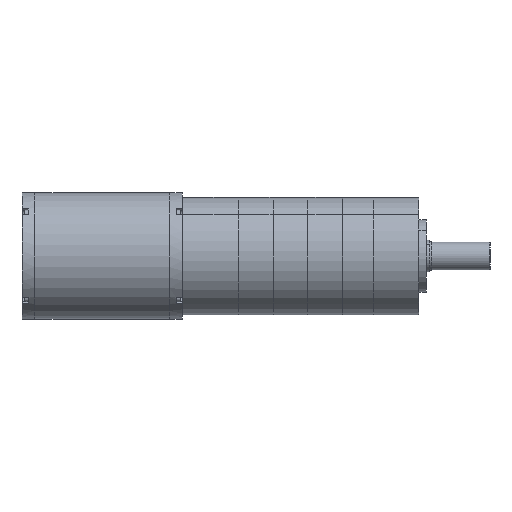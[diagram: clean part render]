
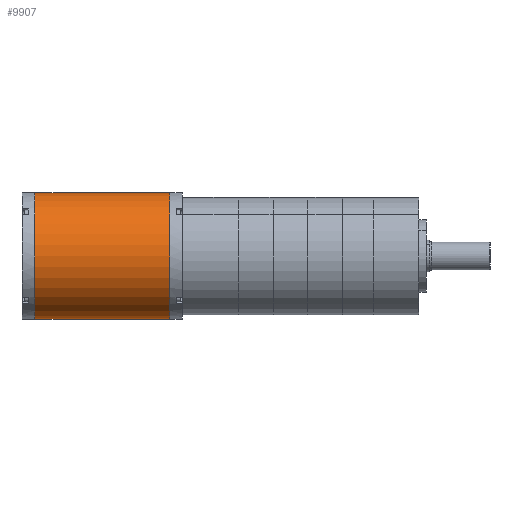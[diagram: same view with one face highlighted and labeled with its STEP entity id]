
A CAD part, front view. The second image highlights one B-rep face of the part: STEP entity #9907.
In plain terms, the highlighted cylindrical face has radius 43.69 mm (diameter 87.38 mm), a partial arc.
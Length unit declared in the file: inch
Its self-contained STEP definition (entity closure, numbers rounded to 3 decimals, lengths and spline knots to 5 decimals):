
#145 = DIRECTION ( 'NONE',  ( 0., 0., -1. ) ) ;
#764 = AXIS2_PLACEMENT_3D ( 'NONE', #5219, #12320, #145 ) ;
#833 = FACE_OUTER_BOUND ( 'NONE', #8288, .T. ) ;
#1009 = VERTEX_POINT ( 'NONE', #1346 ) ;
#1051 = LINE ( 'NONE', #9241, #9154 ) ;
#1190 = DIRECTION ( 'NONE',  ( -1., 0., 0. ) ) ;
#1327 = DIRECTION ( 'NONE',  ( 0., 0., -1. ) ) ;
#1346 = CARTESIAN_POINT ( 'NONE',  ( 2.85858, 2.42553, 2.36782 ) ) ;
#1649 = LINE ( 'NONE', #9857, #1789 ) ;
#1789 = VECTOR ( 'NONE', #8796, 39.37008 ) ;
#2831 = EDGE_CURVE ( 'NONE', #6806, #5953, #10387, .T. ) ;
#4038 = AXIS2_PLACEMENT_3D ( 'NONE', #7395, #4448, #1327 ) ;
#4154 = CARTESIAN_POINT ( 'NONE',  ( -0.79142, 2.42553, 5.80798 ) ) ;
#4448 = DIRECTION ( 'NONE',  ( 1., 0., 0. ) ) ;
#4630 = CARTESIAN_POINT ( 'NONE',  ( 2.85858, 2.42553, 5.80798 ) ) ;
#5022 = AXIS2_PLACEMENT_3D ( 'NONE', #12456, #8424, #9212 ) ;
#5219 = CARTESIAN_POINT ( 'NONE',  ( -0.79142, 2.42553, 4.0879 ) ) ;
#5953 = VERTEX_POINT ( 'NONE', #8599 ) ;
#6806 = VERTEX_POINT ( 'NONE', #4154 ) ;
#7031 = EDGE_CURVE ( 'NONE', #1009, #5953, #1051, .T. ) ;
#7395 = CARTESIAN_POINT ( 'NONE',  ( 2.85858, 2.42553, 4.0879 ) ) ;
#7396 = ORIENTED_EDGE ( 'NONE', *, *, #8939, .T. ) ;
#7742 = ORIENTED_EDGE ( 'NONE', *, *, #7031, .F. ) ;
#7872 = CIRCLE ( 'NONE', #4038, 1.72008 ) ;
#8288 = EDGE_LOOP ( 'NONE', ( #7742, #8461, #7396, #10788 ) ) ;
#8424 = DIRECTION ( 'NONE',  ( -1., 0., 0. ) ) ;
#8461 = ORIENTED_EDGE ( 'NONE', *, *, #12952, .F. ) ;
#8599 = CARTESIAN_POINT ( 'NONE',  ( -0.79142, 2.42553, 2.36782 ) ) ;
#8796 = DIRECTION ( 'NONE',  ( -1., 0., 0. ) ) ;
#8939 = EDGE_CURVE ( 'NONE', #11240, #6806, #1649, .T. ) ;
#9154 = VECTOR ( 'NONE', #1190, 39.37008 ) ;
#9212 = DIRECTION ( 'NONE',  ( 0., 0., 1. ) ) ;
#9241 = CARTESIAN_POINT ( 'NONE',  ( 7.7237, 2.42553, 2.36782 ) ) ;
#9857 = CARTESIAN_POINT ( 'NONE',  ( 7.7237, 2.42553, 5.80798 ) ) ;
#9907 = ADVANCED_FACE ( 'NONE', ( #833 ), #10517, .T. ) ;
#10387 = CIRCLE ( 'NONE', #764, 1.72008 ) ;
#10517 = CYLINDRICAL_SURFACE ( 'NONE', #5022, 1.72008 ) ;
#10788 = ORIENTED_EDGE ( 'NONE', *, *, #2831, .T. ) ;
#11240 = VERTEX_POINT ( 'NONE', #4630 ) ;
#12320 = DIRECTION ( 'NONE',  ( 1., 0., 0. ) ) ;
#12456 = CARTESIAN_POINT ( 'NONE',  ( 7.7237, 2.42553, 4.0879 ) ) ;
#12952 = EDGE_CURVE ( 'NONE', #11240, #1009, #7872, .T. ) ;
